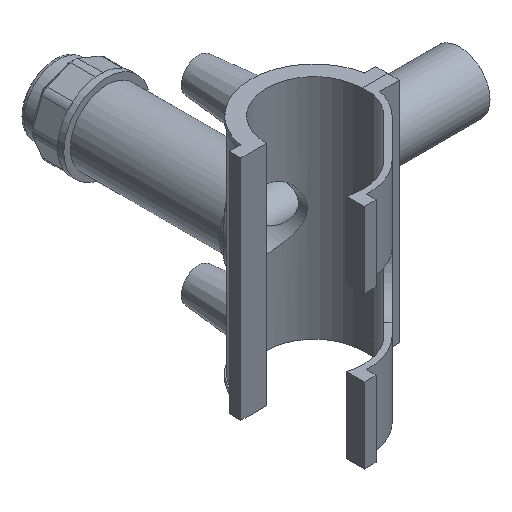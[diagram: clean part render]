
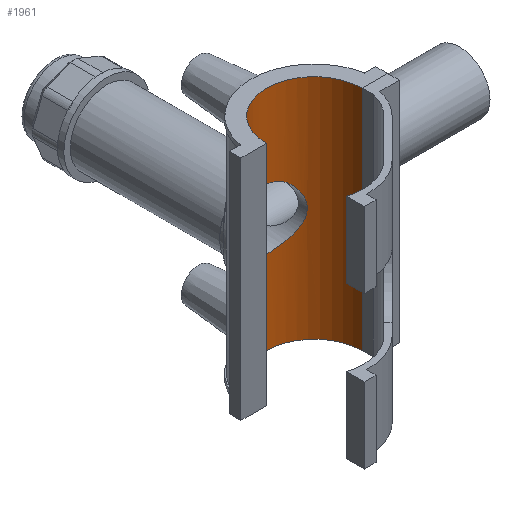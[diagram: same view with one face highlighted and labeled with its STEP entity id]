
A CAD part, isometric view. The second image highlights one B-rep face of the part: STEP entity #1961.
In plain terms, the highlighted cylindrical face has radius 21.05 mm (diameter 42.1 mm), a partial arc.
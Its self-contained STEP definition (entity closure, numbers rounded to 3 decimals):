
#51=FACE_BOUND('',#632,.T.);
#52=B_SPLINE_CURVE_WITH_KNOTS('',3,(#2806,#2807,#2808,#2809,#2810,#2811,
#2812,#2813,#2814,#2815,#2816,#2817,#2818,#2819,#2820,#2821,#2822,#2823,
#2824,#2825,#2826,#2827,#2828,#2829,#2830,#2831,#2832,#2833,#2834,#2835,
#2836,#2837,#2838,#2839,#2840,#2841,#2842,#2843),.UNSPECIFIED.,.F.,.F.,
(4,2,2,2,2,2,2,2,2,2,2,2,2,2,2,2,2,2,4),(0.,0.26,0.52,
1.039,1.554,1.812,2.07,2.327,
2.585,3.1,3.62,3.88,4.14,
4.399,4.659,5.179,5.694,5.952,
6.209),.UNSPECIFIED.);
#53=B_SPLINE_CURVE_WITH_KNOTS('',3,(#2844,#2845,#2846,#2847,#2848,#2849,
#2850,#2851,#2852,#2853,#2854,#2855,#2856,#2857),.UNSPECIFIED.,.F.,.F.,
(4,2,2,2,2,2,4),(6.209,6.467,6.725,7.24,
7.759,8.019,8.279),.UNSPECIFIED.);
#179=LINE('',#3787,#336);
#180=LINE('',#3791,#337);
#336=VECTOR('',#2638,10.);
#337=VECTOR('',#2641,10.);
#420=CYLINDRICAL_SURFACE('',#2175,21.05);
#511=FACE_OUTER_BOUND('',#631,.T.);
#631=EDGE_LOOP('',(#1664,#1665,#1666,#1667));
#632=EDGE_LOOP('',(#1668,#1669));
#733=CIRCLE('',#2172,21.05);
#734=CIRCLE('',#2174,21.05);
#753=VERTEX_POINT('',#2803);
#754=VERTEX_POINT('',#2805);
#891=VERTEX_POINT('',#3781);
#893=VERTEX_POINT('',#3785);
#894=VERTEX_POINT('',#3789);
#895=VERTEX_POINT('',#3790);
#945=EDGE_CURVE('',#754,#753,#52,.T.);
#946=EDGE_CURVE('',#753,#754,#53,.T.);
#1154=EDGE_CURVE('',#891,#893,#179,.T.);
#1155=EDGE_CURVE('',#894,#895,#180,.T.);
#1161=EDGE_CURVE('',#891,#895,#733,.T.);
#1162=EDGE_CURVE('',#894,#893,#734,.T.);
#1664=ORIENTED_EDGE('',*,*,#1155,.T.);
#1665=ORIENTED_EDGE('',*,*,#1161,.F.);
#1666=ORIENTED_EDGE('',*,*,#1154,.T.);
#1667=ORIENTED_EDGE('',*,*,#1162,.F.);
#1668=ORIENTED_EDGE('',*,*,#945,.T.);
#1669=ORIENTED_EDGE('',*,*,#946,.T.);
#1961=ADVANCED_FACE('',(#511,#51),#420,.F.);
#2172=AXIS2_PLACEMENT_3D('',#3800,#2649,#2650);
#2174=AXIS2_PLACEMENT_3D('',#3802,#2653,#2654);
#2175=AXIS2_PLACEMENT_3D('',#3805,#2657,#2658);
#2638=DIRECTION('',(0.,0.,-1.));
#2641=DIRECTION('',(0.,0.,1.));
#2649=DIRECTION('center_axis',(0.,0.,-1.));
#2650=DIRECTION('ref_axis',(-1.,0.,0.));
#2653=DIRECTION('center_axis',(0.,0.,1.));
#2654=DIRECTION('ref_axis',(-1.,0.,0.));
#2657=DIRECTION('center_axis',(0.,0.,1.));
#2658=DIRECTION('ref_axis',(-1.,0.,0.));
#2803=CARTESIAN_POINT('',(0.,21.05,-13.262));
#2805=CARTESIAN_POINT('',(-13.262,16.347,0.));
#2806=CARTESIAN_POINT('Ctrl Pts',(-13.262,16.347,0.));
#2807=CARTESIAN_POINT('Ctrl Pts',(-13.262,16.347,0.866));
#2808=CARTESIAN_POINT('Ctrl Pts',(-13.175,16.418,1.748));
#2809=CARTESIAN_POINT('Ctrl Pts',(-12.827,16.692,3.483));
#2810=CARTESIAN_POINT('Ctrl Pts',(-12.564,16.895,4.335));
#2811=CARTESIAN_POINT('Ctrl Pts',(-11.541,17.624,6.766));
#2812=CARTESIAN_POINT('Ctrl Pts',(-10.533,18.271,8.222));
#2813=CARTESIAN_POINT('Ctrl Pts',(-8.232,19.416,10.523));
#2814=CARTESIAN_POINT('Ctrl Pts',(-6.773,20.001,11.538));
#2815=CARTESIAN_POINT('Ctrl Pts',(-4.331,20.617,12.565));
#2816=CARTESIAN_POINT('Ctrl Pts',(-3.476,20.78,12.829));
#2817=CARTESIAN_POINT('Ctrl Pts',(-1.739,20.996,13.177));
#2818=CARTESIAN_POINT('Ctrl Pts',(-0.859,21.05,13.262));
#2819=CARTESIAN_POINT('Ctrl Pts',(0.859,21.05,13.262));
#2820=CARTESIAN_POINT('Ctrl Pts',(1.739,20.996,13.177));
#2821=CARTESIAN_POINT('Ctrl Pts',(3.476,20.78,12.829));
#2822=CARTESIAN_POINT('Ctrl Pts',(4.331,20.617,12.565));
#2823=CARTESIAN_POINT('Ctrl Pts',(6.773,20.001,11.538));
#2824=CARTESIAN_POINT('Ctrl Pts',(8.232,19.416,10.523));
#2825=CARTESIAN_POINT('Ctrl Pts',(10.533,18.271,8.222));
#2826=CARTESIAN_POINT('Ctrl Pts',(11.541,17.624,6.766));
#2827=CARTESIAN_POINT('Ctrl Pts',(12.564,16.895,4.335));
#2828=CARTESIAN_POINT('Ctrl Pts',(12.827,16.692,3.483));
#2829=CARTESIAN_POINT('Ctrl Pts',(13.175,16.418,1.748));
#2830=CARTESIAN_POINT('Ctrl Pts',(13.262,16.347,0.866));
#2831=CARTESIAN_POINT('Ctrl Pts',(13.262,16.347,-0.866));
#2832=CARTESIAN_POINT('Ctrl Pts',(13.175,16.418,-1.748));
#2833=CARTESIAN_POINT('Ctrl Pts',(12.827,16.692,-3.483));
#2834=CARTESIAN_POINT('Ctrl Pts',(12.564,16.895,-4.335));
#2835=CARTESIAN_POINT('Ctrl Pts',(11.541,17.624,-6.766));
#2836=CARTESIAN_POINT('Ctrl Pts',(10.533,18.271,-8.222));
#2837=CARTESIAN_POINT('Ctrl Pts',(8.232,19.416,-10.523));
#2838=CARTESIAN_POINT('Ctrl Pts',(6.773,20.001,-11.538));
#2839=CARTESIAN_POINT('Ctrl Pts',(4.331,20.617,-12.565));
#2840=CARTESIAN_POINT('Ctrl Pts',(3.476,20.78,-12.829));
#2841=CARTESIAN_POINT('Ctrl Pts',(1.739,20.996,-13.177));
#2842=CARTESIAN_POINT('Ctrl Pts',(0.859,21.05,-13.262));
#2843=CARTESIAN_POINT('Ctrl Pts',(0.,21.05,-13.262));
#2844=CARTESIAN_POINT('Ctrl Pts',(0.,21.05,-13.262));
#2845=CARTESIAN_POINT('Ctrl Pts',(-0.859,21.05,-13.262));
#2846=CARTESIAN_POINT('Ctrl Pts',(-1.739,20.996,-13.177));
#2847=CARTESIAN_POINT('Ctrl Pts',(-3.476,20.78,-12.829));
#2848=CARTESIAN_POINT('Ctrl Pts',(-4.331,20.617,-12.565));
#2849=CARTESIAN_POINT('Ctrl Pts',(-6.773,20.001,-11.538));
#2850=CARTESIAN_POINT('Ctrl Pts',(-8.232,19.416,-10.523));
#2851=CARTESIAN_POINT('Ctrl Pts',(-10.533,18.271,-8.222));
#2852=CARTESIAN_POINT('Ctrl Pts',(-11.541,17.624,-6.766));
#2853=CARTESIAN_POINT('Ctrl Pts',(-12.564,16.895,-4.335));
#2854=CARTESIAN_POINT('Ctrl Pts',(-12.827,16.692,-3.483));
#2855=CARTESIAN_POINT('Ctrl Pts',(-13.175,16.418,-1.748));
#2856=CARTESIAN_POINT('Ctrl Pts',(-13.262,16.347,-0.866));
#2857=CARTESIAN_POINT('Ctrl Pts',(-13.262,16.347,0.));
#3781=CARTESIAN_POINT('',(-21.05,0.05,50.038));
#3785=CARTESIAN_POINT('',(-21.05,0.05,-50.038));
#3787=CARTESIAN_POINT('',(-21.05,0.05,0.));
#3789=CARTESIAN_POINT('',(21.05,0.05,-50.038));
#3790=CARTESIAN_POINT('',(21.05,0.05,50.038));
#3791=CARTESIAN_POINT('',(21.05,0.05,0.));
#3800=CARTESIAN_POINT('Origin',(0.,0.,50.038));
#3802=CARTESIAN_POINT('Origin',(0.,0.,-50.038));
#3805=CARTESIAN_POINT('Origin',(0.,0.,0.));
